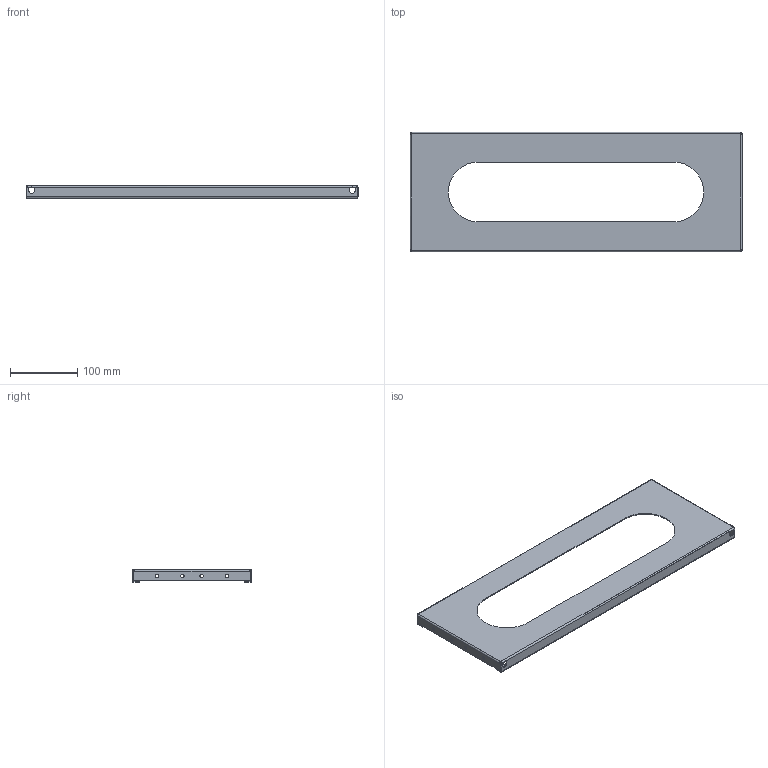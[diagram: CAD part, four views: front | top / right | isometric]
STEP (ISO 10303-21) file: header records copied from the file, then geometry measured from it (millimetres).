
FILE_DESCRIPTION( ( 'Unknown' ), '1' );
FILE_NAME( 'Q:/ACCESSORIES/CABLE MANAGEMENT/WEB DRAWINGS/STEP/CCE1975.stp', 'Unknown', ( 'Unknown' ), ( 'Unknown' ), 'PSStep 10.1', 'Unknown', ' ' );
FILE_SCHEMA( ( 'AUTOMOTIVE_DESIGN { 1 0 10303 214 1 1 1 1 }' ) );
Length unit declared in the file: millimetre
Products named in the file (1): 1
Bounding box: 495.3 x 177.8 x 19.05 mm (x, y, z)
Volume: 124329 mm3; surface area: 175547.1 mm2
Topology: 1 solids, 1 shells, 78 faces, 220 edges, 136 vertices
Faces by surface type: plane 36, cylinder 34, bspline 8
Full cylindrical faces by diameter (mm): 4.928 x8, 9.525 x4
Entity records: 3672 total; most frequent: CARTESIAN_POINT 1087, ORIENTED_EDGE 416, DIRECTION 370, EDGE_CURVE 208, AXIS2_PLACEMENT_3D 139, VERTEX_POINT 136, EDGE_LOOP 108, LINE 92
